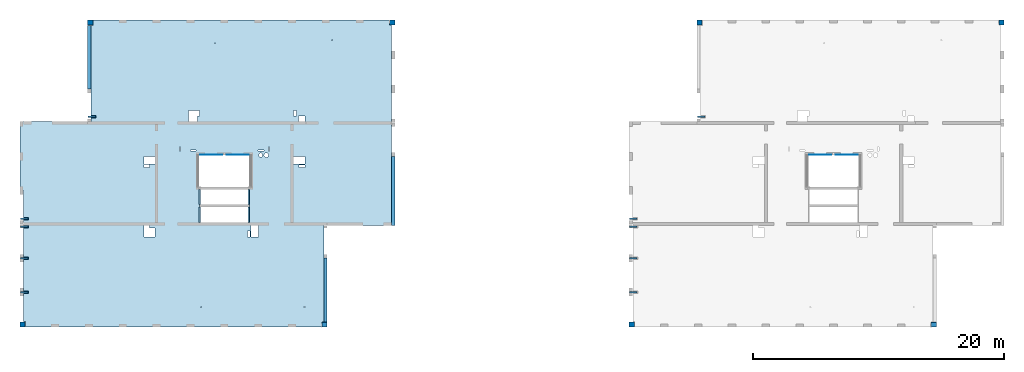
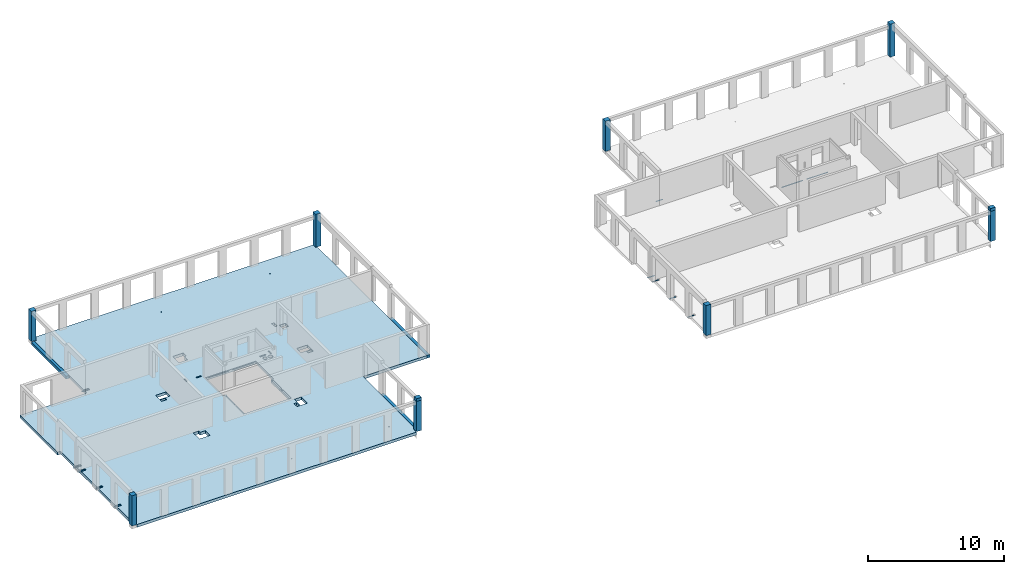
# One storey, part 1 of 11: 14 beams, 10 columns, 4 slabs, 34 openings.
"""IFC2X3 building model written with IfcOpenShell, lengths in millimetres."""

from ifc_helpers import new_model, entity, si_unit, converted_unit, derived_unit, direction, frame, frame_2d, origin, origin_2d_with_axis, place, context, subcontext, project, spatial, polyline, rectangle, circle, outline, extrude, source, transform, mapped, material, layer, layer_set, layer_usage, type_object, type_shapes, element, save


model = new_model("IFC2X3")

# Units and contexts
model_context = context("Model", 3, precision=0.01, world=origin(), true_north=direction((6.12303176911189e-17, 1.0)))
body_context = subcontext(model_context, "Body", "Model", "MODEL_VIEW")
ifc_project = project(units=[si_unit("LENGTHUNIT", "METRE", prefix="MILLI"), si_unit("AREAUNIT", "SQUARE_METRE"), si_unit("VOLUMEUNIT", "CUBIC_METRE"), converted_unit("PLANEANGLEUNIT", "DEGREE", entity("IfcRatioMeasure", 0.0174532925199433), si_unit("PLANEANGLEUNIT", "RADIAN"), dimensions=[0, 0, 0, 0, 0, 0, 0]), si_unit("MASSUNIT", "GRAM", prefix="KILO"), derived_unit("MASSDENSITYUNIT", [(si_unit("MASSUNIT", "GRAM", prefix="KILO"), 1), (si_unit("LENGTHUNIT", "METRE"), -3)]), si_unit("TIMEUNIT", "SECOND"), si_unit("FREQUENCYUNIT", "HERTZ"), si_unit("THERMODYNAMICTEMPERATUREUNIT", "DEGREE_CELSIUS"), derived_unit("THERMALTRANSMITTANCEUNIT", [(si_unit("MASSUNIT", "GRAM", prefix="KILO"), 1), (si_unit("THERMODYNAMICTEMPERATUREUNIT", "KELVIN"), -1), (si_unit("TIMEUNIT", "SECOND"), -3)]), derived_unit("VOLUMETRICFLOWRATEUNIT", [(si_unit("LENGTHUNIT", "METRE"), 3), (si_unit("TIMEUNIT", "SECOND"), -1)]), si_unit("ELECTRICCURRENTUNIT", "AMPERE"), si_unit("ELECTRICVOLTAGEUNIT", "VOLT"), si_unit("POWERUNIT", "WATT"), si_unit("FORCEUNIT", "NEWTON", prefix="KILO"), si_unit("ILLUMINANCEUNIT", "LUX"), si_unit("LUMINOUSFLUXUNIT", "LUMEN"), si_unit("LUMINOUSINTENSITYUNIT", "CANDELA"), derived_unit("USERDEFINED", [(si_unit("MASSUNIT", "GRAM", prefix="KILO"), -1), (si_unit("LENGTHUNIT", "METRE"), -2), (si_unit("TIMEUNIT", "SECOND"), 3), (si_unit("LUMINOUSFLUXUNIT", "LUMEN"), 1)]), derived_unit("LINEARVELOCITYUNIT", [(si_unit("LENGTHUNIT", "METRE"), 1), (si_unit("TIMEUNIT", "SECOND"), -1)]), si_unit("PRESSUREUNIT", "PASCAL"), derived_unit("USERDEFINED", [(si_unit("LENGTHUNIT", "METRE"), -2), (si_unit("MASSUNIT", "GRAM", prefix="KILO"), 1), (si_unit("TIMEUNIT", "SECOND"), -2)])], contexts=[model_context])

# Site, building, storey
site_placement = place(None, origin())
site = spatial("IfcSite", under=ifc_project, at=site_placement, Name="Default", CompositionType="ELEMENT")
building_placement = place(site_placement, origin())
building = spatial("IfcBuilding", under=site, at=building_placement, Name="niet gebruiken", CompositionType="ELEMENT")
storey_placement = place(building_placement, frame((0.0, 0.0, 54180.0)))
storey = spatial("IfcBuildingStorey", under=building, at=storey_placement, Name="18 achttiende verdieping", CompositionType="ELEMENT", Elevation=54180.0)

# Columns
ifc_material_1 = material(Name="NLRS_f2_beton prefab")
column_type_1 = type_object("IfcColumnType", Name="410x410", PredefinedType="COLUMN", material=ifc_material_1)
shared_shape_1 = source(origin(), body_context, "Body", "SweptSolid", [
    extrude(rectangle(XDim=410.0, YDim=410.0, at=origin_2d_with_axis()), frame((0.0, 0.0, 54110.0), z_axis=(0.0, 0.0, 1.0), x_axis=(0.0, -1.0, 0.0)), (0.0, 0.0, 1.0), 2700.0),
])
type_shapes(column_type_1, [shared_shape_1])
for number, where, name in (
    (1, (99795.0, 28961.0, -54180.0), "NLRS_28. kolom vierkant_gen:410x410"),
    (2, (81105.0, 53051.0, -54180.0), "NLRS_28. kolom vierkant_gen:410x410"),
    (3, (51195.0, 28961.0, -54180.0), "NLRS_28. kolom vierkant_gen:410x410"),
    (4, (32505.0, 53051.0, -54180.0), "NLRS_28. kolom vierkant_gen:410x410"),
):
    element("IfcColumn", number, at=place(storey_placement, frame(where)), inside=storey, type_object=column_type_1, material=ifc_material_1, Name=name, ObjectType="410x410", context=body_context, shape_type="MappedRepresentation", body=[
        mapped(shared_shape_1, transform((0.0, 0.0, 0.0), scale=1.0)),
    ])
column_type_2 = type_object("IfcColumnType", Name="410x410", PredefinedType="COLUMN", material=ifc_material_1)
shared_shape_2 = source(origin(), body_context, "Body", "SweptSolid", [
    extrude(rectangle(XDim=410.0, YDim=410.0, at=origin_2d_with_axis()), frame((0.0, 0.0, 54110.0), z_axis=(0.0, 0.0, 1.0), x_axis=(0.0, -1.0, 0.0)), (0.0, 0.0, 1.0), 2700.0),
])
type_shapes(column_type_2, [shared_shape_2])
for number, where, z_axis, x_axis, name in (
    (5, (75705.0, 28961.0, -54180.0), (0.0, 0.0, 1.0), (0.0, 1.0, 0.0), "NLRS_28. kolom vierkant_gen1:410x410"),
    (6, (27105.0, 28961.0, -54180.0), (0.0, 0.0, 1.0), (0.0, 1.0, 0.0), "NLRS_28. kolom vierkant_gen1:410x410"),
):
    element("IfcColumn", number, at=place(storey_placement, frame(where, z_axis=z_axis, x_axis=x_axis)), inside=storey, type_object=column_type_2, material=ifc_material_1, Name=name, ObjectType="410x410", context=body_context, shape_type="MappedRepresentation", body=[
        mapped(shared_shape_2, transform((0.0, 0.0, 0.0), scale=1.0)),
    ])
column_type_3 = type_object("IfcColumnType", Name="410x410", PredefinedType="COLUMN", material=ifc_material_1)
shared_shape_3 = source(origin(), body_context, "Body", "SweptSolid", [
    extrude(rectangle(XDim=410.000000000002, YDim=409.999999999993, at=origin_2d_with_axis()), frame((105195.0, 53051.0, 54110.0), z_axis=(0.0, 0.0, 1.0), x_axis=(0.0, -1.0, 0.0)), (0.0, 0.0, 1.0), 2950.00000000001),
])
type_shapes(column_type_3, [shared_shape_3])
column_1_placement = place(storey_placement, frame((0.0, 0.0, -54180.0)))
element("IfcColumn", 7, at=column_1_placement, inside=storey, type_object=column_type_3, material=ifc_material_1, Name="NLRS_28. kolom vierkant_gen:410x410", ObjectType="410x410", context=body_context, shape_type="MappedRepresentation", body=[
    mapped(shared_shape_3, transform((0.0, 0.0, 0.0), scale=1.0)),
])
column_type_4 = type_object("IfcColumnType", Name="410x410", PredefinedType="COLUMN", material=ifc_material_1)
shared_shape_4 = source(origin(), body_context, "Body", "SweptSolid", [
    extrude(rectangle(XDim=410.000000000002, YDim=410.000000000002, at=origin_2d_with_axis()), frame((56595.0, 53051.0, 54110.0), z_axis=(0.0, 0.0, 1.0), x_axis=(0.0, -1.0, 0.0)), (0.0, 0.0, 1.0), 2950.00000000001),
])
type_shapes(column_type_4, [shared_shape_4])
column_2_placement = place(storey_placement, frame((0.0, 0.0, -54180.0)))
element("IfcColumn", 8, at=column_2_placement, inside=storey, type_object=column_type_4, material=ifc_material_1, Name="NLRS_28. kolom vierkant_gen:410x410", ObjectType="410x410", context=body_context, shape_type="MappedRepresentation", body=[
    mapped(shared_shape_4, transform((0.0, 0.0, 0.0), scale=1.0)),
])
column_type_5 = type_object("IfcColumnType", Name="410x360", PredefinedType="COLUMN", material=ifc_material_1)
shared_shape_5 = source(origin(), body_context, "Body", "SweptSolid", [
    extrude(rectangle(XDim=360.0, YDim=410.000000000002, at=origin_2d_with_axis()), frame((51195.0, 28936.0, 56810.0), z_axis=(0.0, 0.0, 1.0), x_axis=(0.0, -1.0, 0.0)), (0.0, 0.0, 1.0), 250.000000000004),
])
type_shapes(column_type_5, [shared_shape_5])
column_3_placement = place(storey_placement, frame((0.0, 0.0, -54180.0)))
element("IfcColumn", 9, at=column_3_placement, inside=storey, type_object=column_type_5, material=ifc_material_1, Name="NLRS_28. kolom vierkant_gen:410x360", ObjectType="410x360", context=body_context, shape_type="MappedRepresentation", body=[
    mapped(shared_shape_5, transform((0.0, 0.0, 0.0), scale=1.0)),
])
column_type_6 = type_object("IfcColumnType", Name="410x360", PredefinedType="COLUMN", material=ifc_material_1)
shared_shape_6 = source(origin(), body_context, "Body", "SweptSolid", [
    extrude(rectangle(XDim=360.0, YDim=409.999999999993, at=origin_2d_with_axis()), frame((99795.0, 28936.0, 56810.0), z_axis=(0.0, 0.0, 1.0), x_axis=(0.0, -1.0, 0.0)), (0.0, 0.0, 1.0), 250.000000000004),
])
type_shapes(column_type_6, [shared_shape_6])
column_4_placement = place(storey_placement, frame((0.0, 0.0, -54180.0)))
element("IfcColumn", 10, at=column_4_placement, inside=storey, type_object=column_type_6, material=ifc_material_1, Name="NLRS_28. kolom vierkant_gen:410x360", ObjectType="410x360", context=body_context, shape_type="MappedRepresentation", body=[
    mapped(shared_shape_6, transform((0.0, 0.0, 0.0), scale=1.0)),
])

# Beams
ifc_material_2 = material(Name="NLRS_h2_staal")
beam_type_1 = type_object("IfcBeamType", Name="ligger stripstaal RECT_120x10", PredefinedType="BEAM", material=ifc_material_2)
shared_shape_7 = source(origin(), body_context, "Body", "SweptSolid", [
    extrude(rectangle(XDim=599.999999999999, YDim=120.0, at=origin_2d_with_axis()), frame((0.0, 0.0, -5.0), z_axis=(0.0, 0.0, 1.0), x_axis=(-1.0, 0.0, 0.0)), (0.0, 0.0, 1.0), 9.99999999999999),
    extrude(rectangle(XDim=599.999999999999, YDim=120.0, at=origin_2d_with_axis()), frame((0.0, 0.0, -5.0), z_axis=(0.0, 0.0, 1.0), x_axis=(-1.0, 0.0, 0.0)), (0.0, 0.0, 1.0), 9.99999999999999),
])
type_shapes(beam_type_1, [shared_shape_7])
for number, where, name in (
    (11, (27235.0, 31556.0, -115.0), "NLRS_28.11_SF_WPB_stalen ligger stripstaal_gen:ligger stripstaal RECT_120x10"),
    (12, (27235.0, 34256.0, -115.0), "NLRS_28.11_SF_WPB_stalen ligger stripstaal_gen:ligger stripstaal RECT_120x10"),
    (13, (27235.0, 36766.0, -115.0), "NLRS_28.11_SF_WPB_stalen ligger stripstaal_gen:ligger stripstaal RECT_120x10"),
    (14, (75835.0, 31556.0, -115.0), "NLRS_28.11_SF_WPB_stalen ligger stripstaal_gen:ligger stripstaal RECT_120x10"),
    (15, (75835.0, 34256.0, -115.0), "NLRS_28.11_SF_WPB_stalen ligger stripstaal_gen:ligger stripstaal RECT_120x10"),
    (16, (75835.0, 36766.0, -115.0), "NLRS_28.11_SF_WPB_stalen ligger stripstaal_gen:ligger stripstaal RECT_120x10"),
):
    element("IfcBeam", number, at=place(storey_placement, frame(where)), inside=storey, type_object=beam_type_1, material=ifc_material_2, Name=name, ObjectType="ligger stripstaal RECT_120x10", context=body_context, shape_type="MappedRepresentation", body=[
        mapped(shared_shape_7, transform((0.0, 0.0, 0.0), scale=1.0)),
    ])
beam_type_2 = type_object("IfcBeamType", Name="NLRS_28.11_SF_WPB_Halfen 40-22_gen:ligger stripstaal RECT_100x10", PredefinedType="BEAM")
for number, where, name in (
    (17, (41264.9998491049, 42496.0, -160.0), "NLRS_28.11_SF_WPB_Halfen 40-22_gen:ligger stripstaal RECT_100x10"),
    (18, (43374.999849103, 42496.0, -160.0), "NLRS_28.11_SF_WPB_Halfen 40-22_gen:ligger stripstaal RECT_100x10"),
):
    element("IfcBeam", number, at=place(storey_placement, frame(where)), inside=storey, type_object=beam_type_2, material=ifc_material_2, Name=name, ObjectType="NLRS_28.11_SF_WPB_Halfen 40-22_gen:ligger stripstaal RECT_100x10", context=body_context, shape_type="SweptSolid", body=[
        extrude(outline(polyline([(-20.0, -8.0), (-9.0, -8.0), (-9.0, 0.0), (-11.0, 0.0), (-11.0, -6.0), (-18.0, -6.0), (-18.0, 13.0), (18.0, 13.0), (18.0, -6.0), (11.0, -6.0), (11.0, 0.0), (9.0, 0.0), (9.0, -8.0), (20.0, -8.0), (20.0, 15.0), (-20.0, 15.0), (-20.0, -8.0)])), frame((0.0, 8.0, 20.0), z_axis=(1.0, 0.0, 0.0), x_axis=(0.0, 0.0, -1.0)), (0.0, 0.0, 1.0), 1760.00000000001),
    ])
beam_1_placement = place(storey_placement, frame((89865.0, 42496.0, -160.0)))
element("IfcBeam", 19, at=beam_1_placement, inside=storey, type_object=beam_type_2, material=ifc_material_2, Name="NLRS_28.11_SF_WPB_Halfen 40-22_gen:ligger stripstaal RECT_100x10", ObjectType="NLRS_28.11_SF_WPB_Halfen 40-22_gen:ligger stripstaal RECT_100x10", context=body_context, shape_type="SweptSolid", body=[
    extrude(outline(polyline([(-20.0, -8.0), (-9.0, -8.0), (-9.0, 0.0), (-11.0, 0.0), (-11.0, -6.0), (-18.0, -6.0), (-18.0, 13.0), (18.0, 13.0), (18.0, -6.0), (11.0, -6.0), (11.0, 0.0), (9.0, 0.0), (9.0, -8.0), (20.0, -8.0), (20.0, 15.0), (-20.0, 15.0), (-20.0, -8.0)])), frame((0.0, 8.0, 20.0), z_axis=(1.0, 0.0, 0.0), x_axis=(0.0, 0.0, -1.0)), (0.0, 0.0, 1.0), 1760.00000000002),
])
beam_2_placement = place(storey_placement, frame((91975.0, 42496.0, -160.0)))
element("IfcBeam", 20, at=beam_2_placement, inside=storey, type_object=beam_type_2, material=ifc_material_2, Name="NLRS_28.11_SF_WPB_Halfen 40-22_gen:ligger stripstaal RECT_100x10", ObjectType="NLRS_28.11_SF_WPB_Halfen 40-22_gen:ligger stripstaal RECT_100x10", context=body_context, shape_type="SweptSolid", body=[
    extrude(outline(polyline([(-20.0, -8.0), (-9.0, -8.0), (-9.0, 0.0), (-11.0, 0.0), (-11.0, -6.0), (-18.0, -6.0), (-18.0, 13.0), (18.0, 13.0), (18.0, -6.0), (11.0, -6.0), (11.0, 0.0), (9.0, 0.0), (9.0, -8.0), (20.0, -8.0), (20.0, 15.0), (-20.0, 15.0), (-20.0, -8.0)])), frame((0.0, 8.0, 20.0), z_axis=(1.0, 0.0, 0.0), x_axis=(0.0, 0.0, -1.0)), (0.0, 0.0, 1.0), 1760.0),
])
beam_type_3 = type_object("IfcBeamType", Name="ligger stripstaal RECT_120x10", PredefinedType="BEAM", material=ifc_material_2)
shared_shape_8 = source(origin(), body_context, "Body", "SweptSolid", [
    extrude(rectangle(XDim=120.0, YDim=600.000000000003, at=origin_2d_with_axis()), frame((0.0, 0.0, -5.0), z_axis=(0.0, 0.0, 1.0), x_axis=(0.0, 1.0, 0.0)), (0.0, 0.0, 1.0), 9.99999999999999),
    extrude(rectangle(XDim=120.0, YDim=600.000000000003, at=origin_2d_with_axis()), frame((0.0, 0.0, -5.0), z_axis=(0.0, 0.0, 1.0), x_axis=(0.0, 1.0, 0.0)), (0.0, 0.0, 1.0), 9.99999999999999),
])
type_shapes(beam_type_3, [shared_shape_8])
for number, where, name in (
    (21, (27235.0, 37386.0, -115.0), "NLRS_28.11_SF_WPB_stalen ligger stripstaal_gen:ligger stripstaal RECT_120x10"),
    (22, (32635.0, 45521.0, -115.0), "NLRS_28.11_SF_WPB_stalen ligger stripstaal_gen:ligger stripstaal RECT_120x10"),
    (23, (75835.0, 37386.0, -115.0), "NLRS_28.11_SF_WPB_stalen ligger stripstaal_gen:ligger stripstaal RECT_120x10"),
    (24, (81235.0, 45521.0, -115.0), "NLRS_28.11_SF_WPB_stalen ligger stripstaal_gen:ligger stripstaal RECT_120x10"),
):
    element("IfcBeam", number, at=place(storey_placement, frame(where)), inside=storey, type_object=beam_type_3, material=ifc_material_2, Name=name, ObjectType="ligger stripstaal RECT_120x10", context=body_context, shape_type="MappedRepresentation", body=[
        mapped(shared_shape_8, transform((0.0, 0.0, 0.0), scale=1.0)),
    ])

# Slab, openings
ifc_material_3 = material(Name="NLRS_f2_beton ihwg")
ifc_layer = layer(ifc_material_3, 250.0)
ifc_layer_set = layer_set([ifc_layer], Name="Floor:NLRS_23.21_FL_beton ihwg d=250_gen")
ifc_layer_usage_1 = layer_usage(ifc_layer_set, "AXIS3", "POSITIVE", 0.0)
slab_1_placement = place(storey_placement, frame((26900.0, 28756.0, -340.0)))
slab_1 = element("IfcSlab", 25, at=slab_1_placement, inside=storey, material=ifc_layer_usage_1, Name="Floor:NLRS_23.21_FL_beton ihwg d=250_gen", ObjectType="Floor:NLRS_23.21_FL_beton ihwg d=250_gen", PredefinedType="FLOOR", context=body_context, shape_type="SweptSolid", body=[
    extrude(outline(polyline([(8995.0, 12250.0), (-14665.0, 12250.0), (-14665.0, 11840.0), (-14805.0, 11840.0), (-14805.0, 4060.0), (-14825.0, 4060.0), (-14825.0, -4150.0), (-9425.0, -4150.0), (-9425.0, -11890.0), (-9265.0, -11890.0), (-9265.0, -12250.0), (14395.0, -12250.0), (14395.0, -11820.0), (14535.0, -11820.0), (14535.0, -4040.0), (14555.0, -4040.0), (14555.0, -1350.0), (14825.0, -1350.0), (14825.0, 4150.0), (9155.0, 4150.0), (9155.0, 6750.0), (9425.0, 6750.0), (9425.0, 11820.0), (8995.0, 11820.0), (8995.0, 12250.0)])), frame((14825.0, 12250.0, 250.0), z_axis=(0.0, 0.0, -1.0), x_axis=(-1.0, 0.0, 0.0)), (0.0, 0.0, 1.0), 250.000000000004),
])
opening_1_placement = place(storey_placement, frame((26900.0, 28756.0, -340.0)))
element("IfcOpeningElement", 26, at=opening_1_placement, cuts=slab_1, ObjectType="Opening", context=body_context, shape_type="SweptSolid", body=[
    extrude(circle(Radius=37.5, at=frame_2d((-7875.0, -10650.0), x_axis=(1.0, 0.0))), frame((14825.0, 12250.0, 250.0), z_axis=(0.0, 0.0, -1.0), x_axis=(-1.0, 0.0, 0.0)), (0.0, 0.0, 1.0), 250.000000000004),
])
opening_2_placement = place(storey_placement, frame((26900.0, 28756.0, -340.0)))
element("IfcOpeningElement", 27, at=opening_2_placement, cuts=slab_1, ObjectType="Opening", context=body_context, shape_type="SweptSolid", body=[
    extrude(circle(Radius=37.5, at=frame_2d((-10075.0, 10650.0), x_axis=(1.0, 0.0))), frame((14825.0, 12250.0, 250.0), z_axis=(0.0, 0.0, -1.0), x_axis=(-1.0, 0.0, 0.0)), (0.0, 0.0, 1.0), 250.000000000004),
])
opening_3_placement = place(storey_placement, frame((26900.0, 28756.0, -340.0)))
element("IfcOpeningElement", 28, at=opening_3_placement, cuts=slab_1, ObjectType="Opening", context=body_context, shape_type="SweptSolid", body=[
    extrude(circle(Radius=37.5, at=frame_2d((-725.0, 10400.0), x_axis=(1.0, 0.0))), frame((14825.0, 12250.0, 250.0), z_axis=(0.0, 0.0, -1.0), x_axis=(-1.0, 0.0, 0.0)), (0.0, 0.0, 1.0), 250.000000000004),
])
opening_4_placement = place(storey_placement, frame((26900.0, 28756.0, -340.0)))
element("IfcOpeningElement", 29, at=opening_4_placement, cuts=slab_1, ObjectType="Opening", context=body_context, shape_type="SweptSolid", body=[
    extrude(circle(Radius=37.5, at=frame_2d((375.0, -10650.0), x_axis=(1.0, 0.0))), frame((14825.0, 12250.0, 250.0), z_axis=(0.0, 0.0, -1.0), x_axis=(-1.0, 0.0, 0.0)), (0.0, 0.0, 1.0), 250.000000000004),
])
opening_5_placement = place(slab_1_placement, origin())
element("IfcOpeningElement", 30, at=opening_5_placement, cuts=slab_1, ObjectType="Opening", context=body_context, shape_type="SweptSolid", body=[
    extrude(rectangle(XDim=110.000000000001, YDim=1220.0, at=origin_2d_with_axis()), frame((14344.9999671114, 10380.0, 210.0)), (0.0, 0.0, 1.0), 39.9999999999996),
])
opening_6_placement = place(slab_1_placement, origin())
element("IfcOpeningElement", 31, at=opening_6_placement, cuts=slab_1, ObjectType="Opening", context=body_context, shape_type="SweptSolid", body=[
    extrude(rectangle(XDim=110.000000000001, YDim=1220.0, at=origin_2d_with_axis()), frame((18254.9997832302, 10380.0, 210.0)), (0.0, 0.0, 1.0), 39.9999999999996),
])
opening_7_placement = place(slab_1_placement, origin())
element("IfcOpeningElement", 32, at=opening_7_placement, cuts=slab_1, ObjectType="Opening", context=body_context, shape_type="SweptSolid", body=[
    extrude(rectangle(XDim=110.000000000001, YDim=1220.0, at=origin_2d_with_axis()), frame((18255.0, 8960.0, 210.0)), (0.0, 0.0, 1.0), 39.9999999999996),
])
opening_8_placement = place(slab_1_placement, origin())
element("IfcOpeningElement", 33, at=opening_8_placement, cuts=slab_1, ObjectType="Opening", context=body_context, shape_type="SweptSolid", body=[
    extrude(rectangle(XDim=110.000000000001, YDim=1220.0, at=origin_2d_with_axis()), frame((14344.9997832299, 8960.0, 210.0)), (0.0, 0.0, 1.0), 39.9999999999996),
])
opening_9_placement = place(slab_1_placement, origin())
element("IfcOpeningElement", 34, at=opening_9_placement, cuts=slab_1, ObjectType="Opening", context=body_context, shape_type="SweptSolid", body=[
    extrude(rectangle(XDim=400.000000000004, YDim=199.999999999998, at=origin_2d_with_axis()), frame((5870.0, 16765.0, 220.0)), (0.0, 0.0, 1.0), 30.0000000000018),
])
opening_10_placement = place(slab_1_placement, origin())
element("IfcOpeningElement", 35, at=opening_10_placement, cuts=slab_1, ObjectType="Opening", context=body_context, shape_type="SweptSolid", body=[
    extrude(rectangle(XDim=400.000000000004, YDim=200.000000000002, at=origin_2d_with_axis()), frame((470.0, 8630.0, 220.0)), (0.0, 0.0, 1.0), 30.0000000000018),
])
opening_11_placement = place(slab_1_placement, origin())
element("IfcOpeningElement", 36, at=opening_11_placement, cuts=slab_1, ObjectType="Opening", context=body_context, shape_type="SweptSolid", body=[
    extrude(rectangle(XDim=200.000000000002, YDim=400.000000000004, at=origin_2d_with_axis()), frame((490.0, 8000.0, 220.0), z_axis=(0.0, 0.0, 1.0), x_axis=(0.0, -1.0, 0.0)), (0.0, 0.0, 1.0), 30.0000000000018),
])
opening_12_placement = place(slab_1_placement, origin())
element("IfcOpeningElement", 37, at=opening_12_placement, cuts=slab_1, ObjectType="Opening", context=body_context, shape_type="SweptSolid", body=[
    extrude(rectangle(XDim=200.000000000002, YDim=400.000000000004, at=origin_2d_with_axis()), frame((490.0, 5500.0, 220.0), z_axis=(0.0, 0.0, 1.0), x_axis=(0.0, -1.0, 0.0)), (0.0, 0.0, 1.0), 30.0000000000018),
])
opening_13_placement = place(slab_1_placement, origin())
element("IfcOpeningElement", 38, at=opening_13_placement, cuts=slab_1, ObjectType="Opening", context=body_context, shape_type="SweptSolid", body=[
    extrude(rectangle(XDim=200.000000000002, YDim=400.000000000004, at=origin_2d_with_axis()), frame((490.0, 2800.0, 220.0), z_axis=(0.0, 0.0, 1.0), x_axis=(0.0, -1.0, 0.0)), (0.0, 0.0, 1.0), 30.0000000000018),
])
opening_14_placement = place(slab_1_placement, origin())
element("IfcOpeningElement", 39, at=opening_14_placement, cuts=slab_1, ObjectType="Opening", context=body_context, shape_type="SweptSolid", body=[
    extrude(rectangle(XDim=900.000000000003, YDim=700.000000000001, at=origin_2d_with_axis()), frame((10325.0, 7550.0, 0.0), z_axis=(0.0, 0.0, 1.0), x_axis=(-1.0, 0.0, 0.0)), (0.0, 0.0, 1.0), 250.000000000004),
])
opening_15_placement = place(slab_1_placement, origin())
element("IfcOpeningElement", 40, at=opening_15_placement, cuts=slab_1, ObjectType="Opening", context=body_context, shape_type="SweptSolid", body=[
    extrude(rectangle(XDim=200.000000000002, YDim=450.000000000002, at=origin_2d_with_axis()), frame((10100.0, 8000.0, 0.0), z_axis=(0.0, 0.0, 1.0), x_axis=(0.0, -1.0, 0.0)), (0.0, 0.0, 1.0), 250.000000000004),
])
opening_16_placement = place(slab_1_placement, origin())
element("IfcOpeningElement", 41, at=opening_16_placement, cuts=slab_1, ObjectType="Opening", context=body_context, shape_type="SweptSolid", body=[
    extrude(rectangle(XDim=900.000000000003, YDim=729.999999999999, at=origin_2d_with_axis()), frame((13800.0, 16850.0, 0.0), z_axis=(0.0, 0.0, 1.0), x_axis=(0.0, 1.0, 0.0)), (0.0, 0.0, 1.0), 250.000000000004),
])
opening_17_placement = place(slab_1_placement, origin())
element("IfcOpeningElement", 42, at=opening_17_placement, cuts=slab_1, ObjectType="Opening", context=body_context, shape_type="SweptSolid", body=[
    extrude(rectangle(XDim=170.000000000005, YDim=450.000000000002, at=origin_2d_with_axis()), frame((14250.0, 17075.0, 0.0), z_axis=(0.0, 0.0, 1.0), x_axis=(-1.0, 0.0, 0.0)), (0.0, 0.0, 1.0), 250.000000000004),
])
opening_18_placement = place(slab_1_placement, origin())
element("IfcOpeningElement", 43, at=opening_18_placement, cuts=slab_1, ObjectType="Opening", context=body_context, shape_type="SweptSolid", body=[
    extrude(rectangle(XDim=900.000000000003, YDim=600.000000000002, at=origin_2d_with_axis()), frame((10325.0, 13330.0, 0.0), z_axis=(0.0, 0.0, 1.0), x_axis=(-1.0, 0.0, 0.0)), (0.0, 0.0, 1.0), 250.000000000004),
])
opening_19_placement = place(slab_1_placement, origin())
element("IfcOpeningElement", 44, at=opening_19_placement, cuts=slab_1, ObjectType="Opening", context=body_context, shape_type="SweptSolid", body=[
    extrude(rectangle(XDim=450.000000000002, YDim=499.999999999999, at=origin_2d_with_axis()), frame((22475.0, 16625.0, 0.0), z_axis=(0.0, 0.0, 1.0), x_axis=(0.0, 1.0, 0.0)), (0.0, 0.0, 1.0), 250.000000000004),
])
opening_20_placement = place(slab_1_placement, origin())
element("IfcOpeningElement", 45, at=opening_20_placement, cuts=slab_1, ObjectType="Opening", context=body_context, shape_type="SweptSolid", body=[
    extrude(rectangle(XDim=899.999999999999, YDim=600.000000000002, at=origin_2d_with_axis()), frame((18729.9818996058, 7650.0, 0.0), z_axis=(0.0, 0.0, 1.0), x_axis=(0.0, 1.0, 0.0)), (0.0, 0.0, 1.0), 250.000000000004),
])
opening_21_placement = place(slab_1_placement, origin())
element("IfcOpeningElement", 46, at=opening_21_placement, cuts=slab_1, ObjectType="Opening", context=body_context, shape_type="SweptSolid", body=[
    extrude(rectangle(XDim=900.000000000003, YDim=600.000000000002, at=origin_2d_with_axis()), frame((22275.0, 13330.0, 0.0), z_axis=(0.0, 0.0, 1.0), x_axis=(-1.0, 0.0, 0.0)), (0.0, 0.0, 1.0), 250.000000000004),
])
opening_22_placement = place(slab_1_placement, origin())
element("IfcOpeningElement", 47, at=opening_22_placement, cuts=slab_1, ObjectType="Opening", context=body_context, shape_type="SweptSolid", body=[
    extrude(rectangle(XDim=1760.00000000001, YDim=23.0000000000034, at=origin_2d_with_axis()), frame((15244.9998491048, 13751.4999999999, 180.0)), (0.0, 0.0, 1.0), 40.0000000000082),
])
opening_23_placement = place(slab_1_placement, origin())
element("IfcOpeningElement", 48, at=opening_23_placement, cuts=slab_1, ObjectType="Opening", context=body_context, shape_type="SweptSolid", body=[
    extrude(rectangle(XDim=1760.00000000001, YDim=23.0000000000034, at=origin_2d_with_axis()), frame((17354.999849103, 13751.4999999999, 180.0)), (0.0, 0.0, 1.0), 40.0000000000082),
])
opening_24_placement = place(slab_1_placement, origin())
element("IfcOpeningElement", 49, at=opening_24_placement, cuts=slab_1, ObjectType="Opening", context=body_context, shape_type="SweptSolid", body=[
    extrude(rectangle(XDim=100.000000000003, YDim=490.000000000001, at=origin_2d_with_axis()), frame((19225.0, 14090.0, 0.0), z_axis=(0.0, 0.0, 1.0), x_axis=(0.0, -1.0, 0.0)), (0.0, 0.0, 1.0), 250.000000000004),
])
opening_25_placement = place(slab_1_placement, origin())
element("IfcOpeningElement", 50, at=opening_25_placement, cuts=slab_1, ObjectType="Opening", context=body_context, shape_type="SweptSolid", body=[
    extrude(rectangle(XDim=100.000000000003, YDim=340.000000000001, at=origin_2d_with_axis()), frame((19865.0, 14210.0, 0.0), z_axis=(0.0, 0.0, 1.0), x_axis=(-1.0, 0.0, 0.0)), (0.0, 0.0, 1.0), 250.000000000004),
])
opening_26_placement = place(slab_1_placement, origin())
element("IfcOpeningElement", 51, at=opening_26_placement, cuts=slab_1, ObjectType="Opening", context=body_context, shape_type="SweptSolid", body=[
    extrude(rectangle(XDim=100.000000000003, YDim=340.000000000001, at=origin_2d_with_axis()), frame((12755.0, 14210.0, 0.0), z_axis=(0.0, 0.0, 1.0), x_axis=(-1.0, 0.0, 0.0)), (0.0, 0.0, 1.0), 250.000000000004),
])
opening_27_placement = place(slab_1_placement, origin())
element("IfcOpeningElement", 52, at=opening_27_placement, cuts=slab_1, ObjectType="Opening", context=body_context, shape_type="SweptSolid", body=[
    extrude(rectangle(XDim=100.000000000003, YDim=440.000000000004, at=origin_2d_with_axis()), frame((13805.0, 14090.0, 0.0), z_axis=(0.0, 0.0, 1.0), x_axis=(0.0, -1.0, 0.0)), (0.0, 0.0, 1.0), 250.000000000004),
])
opening_28_placement = place(slab_1_placement, origin())
element("IfcOpeningElement", 53, at=opening_28_placement, cuts=slab_1, ObjectType="Opening", context=body_context, shape_type="SweptSolid", body=[
    extrude(rectangle(XDim=230.0, YDim=450.000000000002, at=origin_2d_with_axis()), frame((10100.0000865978, 12845.0002270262, 0.0), z_axis=(0.0, 0.0, 1.0), x_axis=(0.0, -1.0, 0.0)), (0.0, 0.0, 1.0), 250.000000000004),
])
opening_29_placement = place(slab_1_placement, origin())
element("IfcOpeningElement", 54, at=opening_29_placement, cuts=slab_1, ObjectType="Opening", context=body_context, shape_type="SweptSolid", body=[
    extrude(rectangle(XDim=220.000000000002, YDim=450.000000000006, at=origin_2d_with_axis()), frame((18240.0, 7425.0, 0.0)), (0.0, 0.0, 1.0), 250.000000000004),
])
opening_30_placement = place(slab_1_placement, origin())
element("IfcOpeningElement", 55, at=opening_30_placement, cuts=slab_1, ObjectType="Opening", context=body_context, shape_type="SweptSolid", body=[
    extrude(rectangle(XDim=220.000000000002, YDim=450.000000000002, at=origin_2d_with_axis()), frame((22500.0, 12840.0, 0.0), z_axis=(0.0, 0.0, 1.0), x_axis=(0.0, -1.0, 0.0)), (0.0, 0.0, 1.0), 250.000000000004),
])
opening_31_placement = place(slab_1_placement, origin())
element("IfcOpeningElement", 56, at=opening_31_placement, cuts=slab_1, ObjectType="Opening", context=body_context, shape_type="SweptSolid", body=[
    extrude(rectangle(XDim=220.000000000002, YDim=450.000000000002, at=origin_2d_with_axis()), frame((21935.0, 17075.0, 0.0), z_axis=(0.0, 0.0, 1.0), x_axis=(-1.0, 0.0, 0.0)), (0.0, 0.0, 1.0), 250.000000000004),
])
opening_32_placement = place(slab_1_placement, origin())
element("IfcOpeningElement", 57, at=opening_32_placement, cuts=slab_1, ObjectType="Opening", context=body_context, shape_type="SweptSolid", body=[
    extrude(circle(Radius=157.5, at=origin_2d_with_axis()), frame((19200.0, 13720.0, 0.0)), (0.0, 0.0, 1.0), 250.000000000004),
])
opening_33_placement = place(slab_1_placement, origin())
element("IfcOpeningElement", 58, at=opening_33_placement, cuts=slab_1, ObjectType="Opening", context=body_context, shape_type="SweptSolid", body=[
    extrude(circle(Radius=177.5, at=origin_2d_with_axis()), frame((19650.0, 13720.0, 0.0)), (0.0, 0.0, 1.0), 250.000000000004),
])
opening_34_placement = place(slab_1_placement, frame((16299.9999458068, 10378.7499999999, 250.0)))
element("IfcOpeningElement", 59, at=opening_34_placement, cuts=slab_1, Name="Floor:NLRS_23.21_FL_beton ihwg d=250_gen:2", ObjectType="Opening", context=body_context, shape_type="SweptSolid", body=[
    extrude(outline(polyline([(-1899.99983742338, -2028.75000000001), (1899.99994580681, -2028.75000000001), (1899.99994580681, -808.750000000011), (1999.99994580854, -808.750000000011), (1999.99994580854, -608.750000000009), (1899.99994580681, -608.750000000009), (1899.99994580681, 751.250000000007), (2134.99994580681, 751.250000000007), (2134.99994580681, 3361.24999999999), (-2135.00005419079, 3361.24999999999), (-2135.00005419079, 751.249999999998), (-1899.99983742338, 751.249999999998), (-1899.99983742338, -608.750000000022), (-2000.00005419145, -608.750000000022), (-2000.00005419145, -808.750000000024), (-1899.99983742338, -808.750000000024), (-1899.99983742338, -2028.75000000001)])), frame((0.0, 0.0, 0.0), z_axis=(0.0, 0.0, -1.0), x_axis=(-1.0, 0.0, 0.0)), (0.0, 0.0, 1.0), 250.000000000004),
])

# Slabs
ifc_layer_usage_2 = layer_usage(ifc_layer_set, "AXIS3", "POSITIVE", 0.0)
slab_2_placement = place(storey_placement, origin())
element("IfcSlab", 60, at=slab_2_placement, inside=storey, material=ifc_layer_usage_2, Name="Floor:NLRS_23.21_FL_beton ihwg d=250_gen", ObjectType="Floor:NLRS_23.21_FL_beton ihwg d=250_gen", PredefinedType="FLOOR", context=body_context, shape_type="SweptSolid", body=[
    extrude(rectangle(XDim=5069.99999999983, YDim=249.999999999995, at=frame_2d((4.32009983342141e-12, 0.0), x_axis=(1.0, 0.0))), frame((32425.0, 50291.0, -90.0), z_axis=(0.0, 0.0, -1.0), x_axis=(0.0, 1.0, 0.0)), (0.0, 0.0, 1.0), 250.000000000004),
])
ifc_layer_usage_3 = layer_usage(ifc_layer_set, "AXIS3", "POSITIVE", 0.0)
slab_3_placement = place(storey_placement, origin())
element("IfcSlab", 61, at=slab_3_placement, inside=storey, material=ifc_layer_usage_3, Name="Floor:NLRS_23.21_FL_beton ihwg d=250_gen", ObjectType="Floor:NLRS_23.21_FL_beton ihwg d=250_gen", PredefinedType="FLOOR", context=body_context, shape_type="SweptSolid", body=[
    extrude(rectangle(XDim=5140.00000000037, YDim=250.000065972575, at=frame_2d((-2.27373675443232e-12, 0.0), x_axis=(1.0, 0.0))), frame((51275.0, 31686.0, -90.0), z_axis=(0.0, 0.0, -1.0), x_axis=(0.0, 1.0, 0.0)), (0.0, 0.0, 1.0), 250.000000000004),
])
ifc_layer_usage_4 = layer_usage(ifc_layer_set, "AXIS3", "POSITIVE", 0.0)
slab_4_placement = place(storey_placement, origin())
element("IfcSlab", 62, at=slab_4_placement, inside=storey, material=ifc_layer_usage_4, Name="Floor:NLRS_23.21_FL_beton ihwg d=250_gen", ObjectType="Floor:NLRS_23.21_FL_beton ihwg d=250_gen", PredefinedType="FLOOR", context=body_context, shape_type="SweptSolid", body=[
    extrude(rectangle(XDim=5500.00000000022, YDim=249.999999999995, at=frame_2d((2.04636307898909e-12, 0.0), x_axis=(1.0, 0.0))), frame((56675.0, 39606.0, -90.0), z_axis=(0.0, 0.0, -1.0), x_axis=(0.0, 1.0, 0.0)), (0.0, 0.0, 1.0), 250.000000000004),
])

save(model, "model.ifc")
